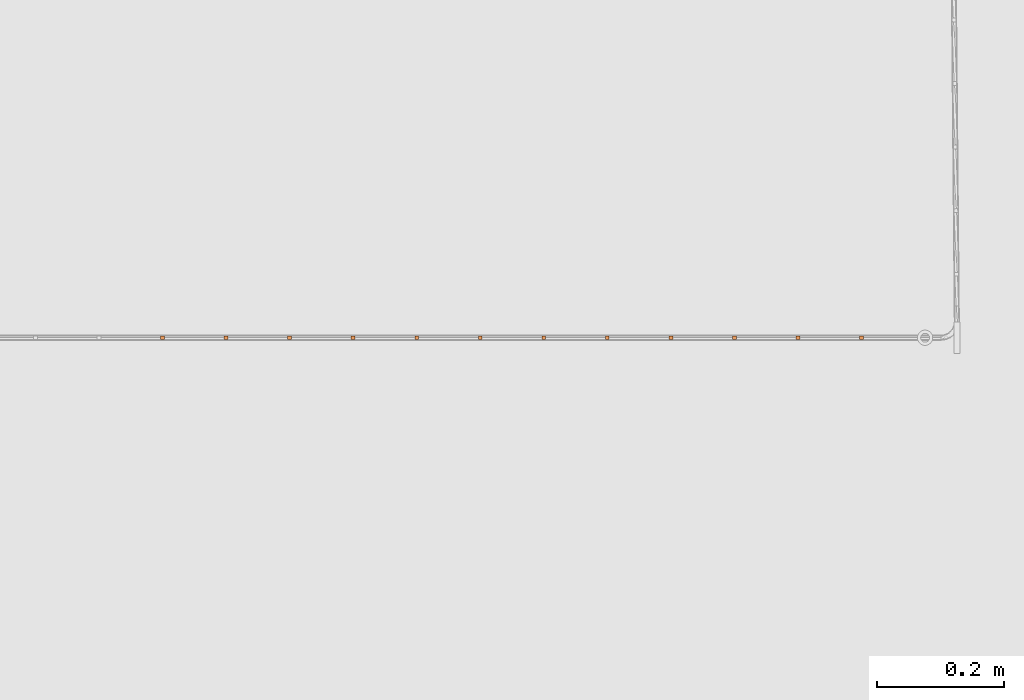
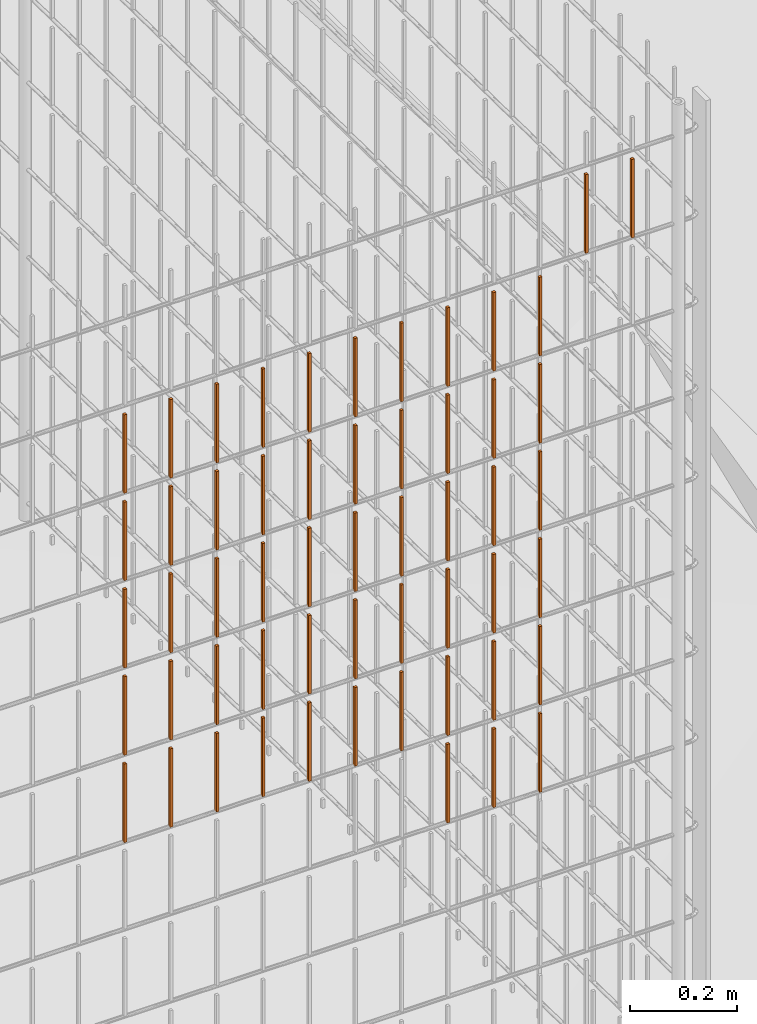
# One storey, part 253 of 1809: 55 proxies, 1 element without a shape of its own.
"""IFC2X3 building model written with IfcOpenShell, lengths in millimetres."""

from ifc_helpers import new_model, entity, si_unit, converted_unit, derived_unit, money_unit, direction, frame, origin_with_axes, place, context, subcontext, project, spatial, faceted_brep, source, transform, mapped, material, type_object, element, aggregate, save


model = new_model("IFC2X3")

# Units and contexts
model_context = context("Model", 3, precision=0.01, world=origin_with_axes(), true_north=direction((0.0, 1.0)))
body_context = subcontext(model_context, "Body", "Model", "MODEL_VIEW")
ifc_project = project(units=[si_unit("LENGTHUNIT", "METRE", prefix="MILLI"), si_unit("AREAUNIT", "SQUARE_METRE"), si_unit("VOLUMEUNIT", "CUBIC_METRE"), converted_unit("PLANEANGLEUNIT", "DEGREE", entity("IfcPlaneAngleMeasure", 0.0174532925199), si_unit("PLANEANGLEUNIT", "RADIAN"), dimensions=[0, 0, 0, 0, 0, 0, 0]), si_unit("SOLIDANGLEUNIT", "STERADIAN"), money_unit("EUR"), converted_unit("TIMEUNIT", "Year", entity("IfcTimeMeasure", 31556926.0), si_unit("TIMEUNIT", "SECOND"), dimensions=[0, 0, 1, 0, 0, 0, 0]), si_unit("MASSUNIT", "GRAM", prefix="KILO"), si_unit("THERMODYNAMICTEMPERATUREUNIT", "DEGREE_CELSIUS"), si_unit("LUMINOUSINTENSITYUNIT", "LUMEN"), si_unit("ENERGYUNIT", "JOULE", prefix="MEGA"), derived_unit("THERMALCONDUCTANCEUNIT", [(si_unit("POWERUNIT", "WATT"), 1), (si_unit("LENGTHUNIT", "METRE"), -1), (si_unit("THERMODYNAMICTEMPERATUREUNIT", "KELVIN"), -1)]), derived_unit("SPECIFICHEATCAPACITYUNIT", [(si_unit("ENERGYUNIT", "JOULE"), 1), (si_unit("MASSUNIT", "GRAM", prefix="KILO"), -1), (si_unit("THERMODYNAMICTEMPERATUREUNIT", "KELVIN"), -1)]), derived_unit("MASSDENSITYUNIT", [(si_unit("MASSUNIT", "GRAM", prefix="KILO"), 1), (si_unit("VOLUMEUNIT", "CUBIC_METRE"), -1)])], contexts=[model_context])

# Site, building, storey
site_placement = place(None, origin_with_axes())
site = spatial("IfcSite", under=ifc_project, at=site_placement, Name="Politse- ja Piirivalveameti ning Päästeameti ühishoone", CompositionType="ELEMENT")
building_placement = place(site_placement, origin_with_axes())
building = spatial("IfcBuilding", under=site, at=building_placement, Name="Politse- ja Piirivalveameti ning Päästeameti ühishoone", CompositionType="ELEMENT")
storey_placement = place(building_placement, origin_with_axes())
storey = spatial("IfcBuildingStorey", under=building, at=storey_placement, Name="Esimene korrus", CompositionType="ELEMENT", Elevation=0.0)

# Proxies
building_element_proxy_type_1 = type_object("IfcBuildingElementProxyType", Name="Railing Type", PredefinedType="NOTDEFINED")
proxy_1_placement = place(storey_placement, frame((-16775.8601056, 25156.7555964, 0.0), z_axis=(0.0, 0.0, 1.0), x_axis=(1.0, 0.0, 0.0)))
proxy_1 = element("IfcBuildingElementProxy", 1, at=proxy_1_placement, inside=storey, type_object=building_element_proxy_type_1, Name="KENNELI PIIRE")
ifc_material = material(Name="Teras - Konstruktsioon")
building_element_proxy_type_2 = type_object("IfcBuildingElementProxyType", Name="IfcBuildingElementProxy", PredefinedType="NOTDEFINED")
shared_shape_1 = source(origin_with_axes(), body_context, "Body", "Brep", [
    faceted_brep([(3.0, 3.0, 0.0), (-3.0, 3.0, 0.0), (-3.0, 3.0, 180.000012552), (3.0, 3.0, 180.000012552), (3.0, -3.0, 0.0), (-3.0, -3.0, 0.0), (-3.0, -3.0, 180.000012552), (3.0, -3.0, 180.000012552)], [[[0, 1, 2, 3]], [[0, 4, 5, 1]], [[1, 5, 6, 2]], [[3, 2, 6, 7]], [[4, 0, 3, 7]], [[5, 4, 7, 6]]]),
])
proxy_2_placement = place(proxy_1_placement, frame((-382.266550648, -16068.8402798, 1003.99998745), z_axis=(0.0, 0.0, 1.0), x_axis=(1.0, 0.0, 0.0)))
proxy_2 = element("IfcBuildingElementProxy", 2, at=proxy_2_placement, type_object=building_element_proxy_type_2, material=ifc_material, Name="BALUSTER - 001", context=body_context, shape_type="MappedRepresentation", body=[
    mapped(shared_shape_1, transform((0.0, 0.0, 0.0), x_axis=(0.0, -1.0, 0.0), y_axis=(1.0, 0.0, 0.0), z_axis=(0.0, 0.0, 1.0))),
])
proxy_3_placement = place(proxy_1_placement, frame((-282.266550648, -16068.8402798, 1003.99998745), z_axis=(0.0, 0.0, 1.0), x_axis=(1.0, 0.0, 0.0)))
proxy_3 = element("IfcBuildingElementProxy", 3, at=proxy_3_placement, type_object=building_element_proxy_type_2, material=ifc_material, Name="BALUSTER - 001", context=body_context, shape_type="MappedRepresentation", body=[
    mapped(shared_shape_1, transform((0.0, 0.0, 0.0), x_axis=(0.0, -1.0, 0.0), y_axis=(1.0, 0.0, 0.0), z_axis=(0.0, 0.0, 1.0))),
])
proxy_4_placement = place(proxy_1_placement, frame((-182.266550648, -16068.8402798, 1003.99998745), z_axis=(0.0, 0.0, 1.0), x_axis=(1.0, 0.0, 0.0)))
proxy_4 = element("IfcBuildingElementProxy", 4, at=proxy_4_placement, type_object=building_element_proxy_type_2, material=ifc_material, Name="BALUSTER - 001", context=body_context, shape_type="MappedRepresentation", body=[
    mapped(shared_shape_1, transform((0.0, 0.0, 0.0), x_axis=(0.0, -1.0, 0.0), y_axis=(1.0, 0.0, 0.0), z_axis=(0.0, 0.0, 1.0))),
])
proxy_5_placement = place(proxy_1_placement, frame((-182.266550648, -16068.8402798, 1803.99998745), z_axis=(0.0, 0.0, 1.0), x_axis=(1.0, 0.0, 0.0)))
proxy_5 = element("IfcBuildingElementProxy", 5, at=proxy_5_placement, type_object=building_element_proxy_type_2, material=ifc_material, Name="BALUSTER - 001", context=body_context, shape_type="MappedRepresentation", body=[
    mapped(shared_shape_1, transform((0.0, 0.0, 0.0), x_axis=(0.0, -1.0, 0.0), y_axis=(1.0, 0.0, 0.0), z_axis=(0.0, 0.0, 1.0))),
])
shared_shape_2 = source(origin_with_axes(), body_context, "Body", "Brep", [
    faceted_brep([(3.0, 3.0, 0.0), (-3.0, 3.0, 0.0), (-3.0, 3.0, 180.000012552), (3.0, 3.0, 180.000012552), (3.0, -3.0, 0.0), (-3.0, -3.0, 0.0), (-3.0, -3.0, 180.000012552), (3.0, -3.0, 180.000012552)], [[[0, 1, 2, 3]], [[0, 4, 5, 1]], [[1, 5, 6, 2]], [[3, 2, 6, 7]], [[4, 0, 3, 7]], [[5, 4, 7, 6]]]),
])
proxy_6_placement = place(proxy_1_placement, frame((-1082.26655065, -16068.8402798, 1403.99998745), z_axis=(0.0, 0.0, 1.0), x_axis=(1.0, 0.0, 0.0)))
proxy_6 = element("IfcBuildingElementProxy", 6, at=proxy_6_placement, type_object=building_element_proxy_type_2, material=ifc_material, Name="BALUSTER - 001", context=body_context, shape_type="MappedRepresentation", body=[
    mapped(shared_shape_2, transform((0.0, 0.0, 0.0), x_axis=(0.0, -1.0, 0.0), y_axis=(1.0, 0.0, 0.0), z_axis=(0.0, 0.0, 1.0))),
])
proxy_7_placement = place(proxy_1_placement, frame((-982.266550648, -16068.8402798, 1403.99998745), z_axis=(0.0, 0.0, 1.0), x_axis=(1.0, 0.0, 0.0)))
proxy_7 = element("IfcBuildingElementProxy", 7, at=proxy_7_placement, type_object=building_element_proxy_type_2, material=ifc_material, Name="BALUSTER - 001", context=body_context, shape_type="MappedRepresentation", body=[
    mapped(shared_shape_2, transform((0.0, 0.0, 0.0), x_axis=(0.0, -1.0, 0.0), y_axis=(1.0, 0.0, 0.0), z_axis=(0.0, 0.0, 1.0))),
])
proxy_8_placement = place(proxy_1_placement, frame((-882.266550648, -16068.8402798, 1403.99998745), z_axis=(0.0, 0.0, 1.0), x_axis=(1.0, 0.0, 0.0)))
proxy_8 = element("IfcBuildingElementProxy", 8, at=proxy_8_placement, type_object=building_element_proxy_type_2, material=ifc_material, Name="BALUSTER - 001", context=body_context, shape_type="MappedRepresentation", body=[
    mapped(shared_shape_2, transform((0.0, 0.0, 0.0), x_axis=(0.0, -1.0, 0.0), y_axis=(1.0, 0.0, 0.0), z_axis=(0.0, 0.0, 1.0))),
])
proxy_9_placement = place(proxy_1_placement, frame((-782.266550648, -16068.8402798, 1403.99998745), z_axis=(0.0, 0.0, 1.0), x_axis=(1.0, 0.0, 0.0)))
proxy_9 = element("IfcBuildingElementProxy", 9, at=proxy_9_placement, type_object=building_element_proxy_type_2, material=ifc_material, Name="BALUSTER - 001", context=body_context, shape_type="MappedRepresentation", body=[
    mapped(shared_shape_2, transform((0.0, 0.0, 0.0), x_axis=(0.0, -1.0, 0.0), y_axis=(1.0, 0.0, 0.0), z_axis=(0.0, 0.0, 1.0))),
])
proxy_10_placement = place(proxy_1_placement, frame((-682.266550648, -16068.8402798, 1403.99998745), z_axis=(0.0, 0.0, 1.0), x_axis=(1.0, 0.0, 0.0)))
proxy_10 = element("IfcBuildingElementProxy", 10, at=proxy_10_placement, type_object=building_element_proxy_type_2, material=ifc_material, Name="BALUSTER - 001", context=body_context, shape_type="MappedRepresentation", body=[
    mapped(shared_shape_2, transform((0.0, 0.0, 0.0), x_axis=(0.0, -1.0, 0.0), y_axis=(1.0, 0.0, 0.0), z_axis=(0.0, 0.0, 1.0))),
])
proxy_11_placement = place(proxy_1_placement, frame((-582.266550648, -16068.8402798, 1403.99998745), z_axis=(0.0, 0.0, 1.0), x_axis=(1.0, 0.0, 0.0)))
proxy_11 = element("IfcBuildingElementProxy", 11, at=proxy_11_placement, type_object=building_element_proxy_type_2, material=ifc_material, Name="BALUSTER - 001", context=body_context, shape_type="MappedRepresentation", body=[
    mapped(shared_shape_2, transform((0.0, 0.0, 0.0), x_axis=(0.0, -1.0, 0.0), y_axis=(1.0, 0.0, 0.0), z_axis=(0.0, 0.0, 1.0))),
])
proxy_12_placement = place(proxy_1_placement, frame((-482.266550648, -16068.8402798, 1403.99998745), z_axis=(0.0, 0.0, 1.0), x_axis=(1.0, 0.0, 0.0)))
proxy_12 = element("IfcBuildingElementProxy", 12, at=proxy_12_placement, type_object=building_element_proxy_type_2, material=ifc_material, Name="BALUSTER - 001", context=body_context, shape_type="MappedRepresentation", body=[
    mapped(shared_shape_2, transform((0.0, 0.0, 0.0), x_axis=(0.0, -1.0, 0.0), y_axis=(1.0, 0.0, 0.0), z_axis=(0.0, 0.0, 1.0))),
])
proxy_13_placement = place(proxy_1_placement, frame((-382.266550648, -16068.8402798, 1403.99998745), z_axis=(0.0, 0.0, 1.0), x_axis=(1.0, 0.0, 0.0)))
proxy_13 = element("IfcBuildingElementProxy", 13, at=proxy_13_placement, type_object=building_element_proxy_type_2, material=ifc_material, Name="BALUSTER - 001", context=body_context, shape_type="MappedRepresentation", body=[
    mapped(shared_shape_2, transform((0.0, 0.0, 0.0), x_axis=(0.0, -1.0, 0.0), y_axis=(1.0, 0.0, 0.0), z_axis=(0.0, 0.0, 1.0))),
])
proxy_14_placement = place(proxy_1_placement, frame((-282.266550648, -16068.8402798, 1403.99998745), z_axis=(0.0, 0.0, 1.0), x_axis=(1.0, 0.0, 0.0)))
proxy_14 = element("IfcBuildingElementProxy", 14, at=proxy_14_placement, type_object=building_element_proxy_type_2, material=ifc_material, Name="BALUSTER - 001", context=body_context, shape_type="MappedRepresentation", body=[
    mapped(shared_shape_2, transform((0.0, 0.0, 0.0), x_axis=(0.0, -1.0, 0.0), y_axis=(1.0, 0.0, 0.0), z_axis=(0.0, 0.0, 1.0))),
])
proxy_15_placement = place(proxy_1_placement, frame((-182.266550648, -16068.8402798, 1403.99998745), z_axis=(0.0, 0.0, 1.0), x_axis=(1.0, 0.0, 0.0)))
proxy_15 = element("IfcBuildingElementProxy", 15, at=proxy_15_placement, type_object=building_element_proxy_type_2, material=ifc_material, Name="BALUSTER - 001", context=body_context, shape_type="MappedRepresentation", body=[
    mapped(shared_shape_2, transform((0.0, 0.0, 0.0), x_axis=(0.0, -1.0, 0.0), y_axis=(1.0, 0.0, 0.0), z_axis=(0.0, 0.0, 1.0))),
])
shared_shape_3 = source(origin_with_axes(), body_context, "Body", "Brep", [
    faceted_brep([(3.0, 3.0, 0.0), (-3.0, 3.0, 0.0), (-3.0, 3.0, 180.000012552), (3.0, 3.0, 180.000012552), (3.0, -3.0, 0.0), (-3.0, -3.0, 0.0), (-3.0, -3.0, 180.000012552), (3.0, -3.0, 180.000012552)], [[[0, 1, 2, 3]], [[0, 4, 5, 1]], [[1, 5, 6, 2]], [[3, 2, 6, 7]], [[4, 0, 3, 7]], [[5, 4, 7, 6]]]),
])
proxy_16_placement = place(proxy_1_placement, frame((-1082.26655065, -16068.8402798, 1803.99998745), z_axis=(0.0, 0.0, 1.0), x_axis=(1.0, 0.0, 0.0)))
proxy_16 = element("IfcBuildingElementProxy", 16, at=proxy_16_placement, type_object=building_element_proxy_type_2, material=ifc_material, Name="BALUSTER - 001", context=body_context, shape_type="MappedRepresentation", body=[
    mapped(shared_shape_3, transform((0.0, 0.0, 0.0), x_axis=(0.0, -1.0, 0.0), y_axis=(1.0, 0.0, 0.0), z_axis=(0.0, 0.0, 1.0))),
])
proxy_17_placement = place(proxy_1_placement, frame((-882.266550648, -16068.8402798, 1803.99998745), z_axis=(0.0, 0.0, 1.0), x_axis=(1.0, 0.0, 0.0)))
proxy_17 = element("IfcBuildingElementProxy", 17, at=proxy_17_placement, type_object=building_element_proxy_type_2, material=ifc_material, Name="BALUSTER - 001", context=body_context, shape_type="MappedRepresentation", body=[
    mapped(shared_shape_3, transform((0.0, 0.0, 0.0), x_axis=(0.0, -1.0, 0.0), y_axis=(1.0, 0.0, 0.0), z_axis=(0.0, 0.0, 1.0))),
])
proxy_18_placement = place(proxy_1_placement, frame((-782.266550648, -16068.8402798, 1803.99998745), z_axis=(0.0, 0.0, 1.0), x_axis=(1.0, 0.0, 0.0)))
proxy_18 = element("IfcBuildingElementProxy", 18, at=proxy_18_placement, type_object=building_element_proxy_type_2, material=ifc_material, Name="BALUSTER - 001", context=body_context, shape_type="MappedRepresentation", body=[
    mapped(shared_shape_3, transform((0.0, 0.0, 0.0), x_axis=(0.0, -1.0, 0.0), y_axis=(1.0, 0.0, 0.0), z_axis=(0.0, 0.0, 1.0))),
])
proxy_19_placement = place(proxy_1_placement, frame((-682.266550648, -16068.8402798, 1803.99998745), z_axis=(0.0, 0.0, 1.0), x_axis=(1.0, 0.0, 0.0)))
proxy_19 = element("IfcBuildingElementProxy", 19, at=proxy_19_placement, type_object=building_element_proxy_type_2, material=ifc_material, Name="BALUSTER - 001", context=body_context, shape_type="MappedRepresentation", body=[
    mapped(shared_shape_3, transform((0.0, 0.0, 0.0), x_axis=(0.0, -1.0, 0.0), y_axis=(1.0, 0.0, 0.0), z_axis=(0.0, 0.0, 1.0))),
])
proxy_20_placement = place(proxy_1_placement, frame((-582.266550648, -16068.8402798, 1803.99998745), z_axis=(0.0, 0.0, 1.0), x_axis=(1.0, 0.0, 0.0)))
proxy_20 = element("IfcBuildingElementProxy", 20, at=proxy_20_placement, type_object=building_element_proxy_type_2, material=ifc_material, Name="BALUSTER - 001", context=body_context, shape_type="MappedRepresentation", body=[
    mapped(shared_shape_3, transform((0.0, 0.0, 0.0), x_axis=(0.0, -1.0, 0.0), y_axis=(1.0, 0.0, 0.0), z_axis=(0.0, 0.0, 1.0))),
])
proxy_21_placement = place(proxy_1_placement, frame((-382.266550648, -16068.8402798, 1803.99998745), z_axis=(0.0, 0.0, 1.0), x_axis=(1.0, 0.0, 0.0)))
proxy_21 = element("IfcBuildingElementProxy", 21, at=proxy_21_placement, type_object=building_element_proxy_type_2, material=ifc_material, Name="BALUSTER - 001", context=body_context, shape_type="MappedRepresentation", body=[
    mapped(shared_shape_3, transform((0.0, 0.0, 0.0), x_axis=(0.0, -1.0, 0.0), y_axis=(1.0, 0.0, 0.0), z_axis=(0.0, 0.0, 1.0))),
])
proxy_22_placement = place(proxy_1_placement, frame((-282.266550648, -16068.8402798, 1803.99998745), z_axis=(0.0, 0.0, 1.0), x_axis=(1.0, 0.0, 0.0)))
proxy_22 = element("IfcBuildingElementProxy", 22, at=proxy_22_placement, type_object=building_element_proxy_type_2, material=ifc_material, Name="BALUSTER - 001", context=body_context, shape_type="MappedRepresentation", body=[
    mapped(shared_shape_3, transform((0.0, 0.0, 0.0), x_axis=(0.0, -1.0, 0.0), y_axis=(1.0, 0.0, 0.0), z_axis=(0.0, 0.0, 1.0))),
])
shared_shape_4 = source(origin_with_axes(), body_context, "Body", "Brep", [
    faceted_brep([(3.0, 3.0, 0.0), (-3.0, 3.0, 0.0), (-3.0, 2.99999999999, 180.000012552), (3.0, 2.99999999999, 180.000012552), (3.0, -3.0, 0.0), (-3.0, -3.0, 0.0), (-3.0, -3.00000000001, 180.000012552), (3.0, -3.00000000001, 180.000012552)], [[[0, 1, 2, 3]], [[0, 4, 5, 1]], [[1, 5, 6, 2]], [[3, 2, 6, 7]], [[4, 0, 3, 7]], [[5, 4, 7, 6]]]),
])
proxy_23_placement = place(proxy_1_placement, frame((-982.266550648, -16068.8402798, 1803.99998745), z_axis=(0.0, 0.0, 1.0), x_axis=(1.0, 0.0, 0.0)))
proxy_23 = element("IfcBuildingElementProxy", 23, at=proxy_23_placement, type_object=building_element_proxy_type_2, material=ifc_material, Name="BALUSTER - 001", context=body_context, shape_type="MappedRepresentation", body=[
    mapped(shared_shape_4, transform((0.0, 0.0, 0.0), x_axis=(0.0, -1.0, 0.0), y_axis=(1.0, 0.0, 0.0), z_axis=(0.0, 0.0, 1.0))),
])
proxy_24_placement = place(proxy_1_placement, frame((-482.266550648, -16068.8402798, 1803.99998745), z_axis=(0.0, 0.0, 1.0), x_axis=(1.0, 0.0, 0.0)))
proxy_24 = element("IfcBuildingElementProxy", 24, at=proxy_24_placement, type_object=building_element_proxy_type_2, material=ifc_material, Name="BALUSTER - 001", context=body_context, shape_type="MappedRepresentation", body=[
    mapped(shared_shape_4, transform((0.0, 0.0, 0.0), x_axis=(0.0, -1.0, 0.0), y_axis=(1.0, 0.0, 0.0), z_axis=(0.0, 0.0, 1.0))),
])
shared_shape_5 = source(origin_with_axes(), body_context, "Body", "Brep", [
    faceted_brep([(3.0, 3.0, 0.0), (-3.0, 3.0, 0.0), (-3.0, 3.0, 180.000012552), (3.0, 3.0, 180.000012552), (3.0, -3.0, 0.0), (-3.0, -3.0, 0.0), (-3.0, -3.0, 180.000012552), (3.0, -3.0, 180.000012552)], [[[0, 1, 2, 3]], [[0, 4, 5, 1]], [[1, 5, 6, 2]], [[3, 2, 6, 7]], [[4, 0, 3, 7]], [[5, 4, 7, 6]]]),
])
proxy_25_placement = place(proxy_1_placement, frame((-1082.26655065, -16068.8402798, 2003.99998745), z_axis=(0.0, 0.0, 1.0), x_axis=(1.0, 0.0, 0.0)))
proxy_25 = element("IfcBuildingElementProxy", 25, at=proxy_25_placement, type_object=building_element_proxy_type_2, material=ifc_material, Name="BALUSTER - 001", context=body_context, shape_type="MappedRepresentation", body=[
    mapped(shared_shape_5, transform((0.0, 0.0, 0.0), x_axis=(0.0, -1.0, 0.0), y_axis=(1.0, 0.0, 0.0), z_axis=(0.0, 0.0, 1.0))),
])
proxy_26_placement = place(proxy_1_placement, frame((-982.266550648, -16068.8402798, 2003.99998745), z_axis=(0.0, 0.0, 1.0), x_axis=(1.0, 0.0, 0.0)))
proxy_26 = element("IfcBuildingElementProxy", 26, at=proxy_26_placement, type_object=building_element_proxy_type_2, material=ifc_material, Name="BALUSTER - 001", context=body_context, shape_type="MappedRepresentation", body=[
    mapped(shared_shape_5, transform((0.0, 0.0, 0.0), x_axis=(0.0, -1.0, 0.0), y_axis=(1.0, 0.0, 0.0), z_axis=(0.0, 0.0, 1.0))),
])
proxy_27_placement = place(proxy_1_placement, frame((-882.266550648, -16068.8402798, 2003.99998745), z_axis=(0.0, 0.0, 1.0), x_axis=(1.0, 0.0, 0.0)))
proxy_27 = element("IfcBuildingElementProxy", 27, at=proxy_27_placement, type_object=building_element_proxy_type_2, material=ifc_material, Name="BALUSTER - 001", context=body_context, shape_type="MappedRepresentation", body=[
    mapped(shared_shape_5, transform((0.0, 0.0, 0.0), x_axis=(0.0, -1.0, 0.0), y_axis=(1.0, 0.0, 0.0), z_axis=(0.0, 0.0, 1.0))),
])
proxy_28_placement = place(proxy_1_placement, frame((-782.266550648, -16068.8402798, 2003.99998745), z_axis=(0.0, 0.0, 1.0), x_axis=(1.0, 0.0, 0.0)))
proxy_28 = element("IfcBuildingElementProxy", 28, at=proxy_28_placement, type_object=building_element_proxy_type_2, material=ifc_material, Name="BALUSTER - 001", context=body_context, shape_type="MappedRepresentation", body=[
    mapped(shared_shape_5, transform((0.0, 0.0, 0.0), x_axis=(0.0, -1.0, 0.0), y_axis=(1.0, 0.0, 0.0), z_axis=(0.0, 0.0, 1.0))),
])
proxy_29_placement = place(proxy_1_placement, frame((-682.266550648, -16068.8402798, 2003.99998745), z_axis=(0.0, 0.0, 1.0), x_axis=(1.0, 0.0, 0.0)))
proxy_29 = element("IfcBuildingElementProxy", 29, at=proxy_29_placement, type_object=building_element_proxy_type_2, material=ifc_material, Name="BALUSTER - 001", context=body_context, shape_type="MappedRepresentation", body=[
    mapped(shared_shape_5, transform((0.0, 0.0, 0.0), x_axis=(0.0, -1.0, 0.0), y_axis=(1.0, 0.0, 0.0), z_axis=(0.0, 0.0, 1.0))),
])
proxy_30_placement = place(proxy_1_placement, frame((-582.266550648, -16068.8402798, 2003.99998745), z_axis=(0.0, 0.0, 1.0), x_axis=(1.0, 0.0, 0.0)))
proxy_30 = element("IfcBuildingElementProxy", 30, at=proxy_30_placement, type_object=building_element_proxy_type_2, material=ifc_material, Name="BALUSTER - 001", context=body_context, shape_type="MappedRepresentation", body=[
    mapped(shared_shape_5, transform((0.0, 0.0, 0.0), x_axis=(0.0, -1.0, 0.0), y_axis=(1.0, 0.0, 0.0), z_axis=(0.0, 0.0, 1.0))),
])
proxy_31_placement = place(proxy_1_placement, frame((-482.266550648, -16068.8402798, 2003.99998745), z_axis=(0.0, 0.0, 1.0), x_axis=(1.0, 0.0, 0.0)))
proxy_31 = element("IfcBuildingElementProxy", 31, at=proxy_31_placement, type_object=building_element_proxy_type_2, material=ifc_material, Name="BALUSTER - 001", context=body_context, shape_type="MappedRepresentation", body=[
    mapped(shared_shape_5, transform((0.0, 0.0, 0.0), x_axis=(0.0, -1.0, 0.0), y_axis=(1.0, 0.0, 0.0), z_axis=(0.0, 0.0, 1.0))),
])
proxy_32_placement = place(proxy_1_placement, frame((-382.266550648, -16068.8402798, 2003.99998745), z_axis=(0.0, 0.0, 1.0), x_axis=(1.0, 0.0, 0.0)))
proxy_32 = element("IfcBuildingElementProxy", 32, at=proxy_32_placement, type_object=building_element_proxy_type_2, material=ifc_material, Name="BALUSTER - 001", context=body_context, shape_type="MappedRepresentation", body=[
    mapped(shared_shape_5, transform((0.0, 0.0, 0.0), x_axis=(0.0, -1.0, 0.0), y_axis=(1.0, 0.0, 0.0), z_axis=(0.0, 0.0, 1.0))),
])
proxy_33_placement = place(proxy_1_placement, frame((-282.266550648, -16068.8402798, 2003.99998745), z_axis=(0.0, 0.0, 1.0), x_axis=(1.0, 0.0, 0.0)))
proxy_33 = element("IfcBuildingElementProxy", 33, at=proxy_33_placement, type_object=building_element_proxy_type_2, material=ifc_material, Name="BALUSTER - 001", context=body_context, shape_type="MappedRepresentation", body=[
    mapped(shared_shape_5, transform((0.0, 0.0, 0.0), x_axis=(0.0, -1.0, 0.0), y_axis=(1.0, 0.0, 0.0), z_axis=(0.0, 0.0, 1.0))),
])
proxy_34_placement = place(proxy_1_placement, frame((-182.266550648, -16068.8402798, 2003.99998745), z_axis=(0.0, 0.0, 1.0), x_axis=(1.0, 0.0, 0.0)))
proxy_34 = element("IfcBuildingElementProxy", 34, at=proxy_34_placement, type_object=building_element_proxy_type_2, material=ifc_material, Name="BALUSTER - 001", context=body_context, shape_type="MappedRepresentation", body=[
    mapped(shared_shape_5, transform((0.0, 0.0, 0.0), x_axis=(0.0, -1.0, 0.0), y_axis=(1.0, 0.0, 0.0), z_axis=(0.0, 0.0, 1.0))),
])
shared_shape_6 = source(origin_with_axes(), body_context, "Body", "Brep", [
    faceted_brep([(3.0, 3.0, 0.0), (-3.0, 3.0, 0.0), (-3.0, 3.0, 180.000012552), (3.0, 3.0, 180.000012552), (3.0, -3.0, 0.0), (-3.0, -3.0, 0.0), (-3.0, -3.0, 180.000012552), (3.0, -3.0, 180.000012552)], [[[0, 1, 2, 3]], [[0, 4, 5, 1]], [[1, 5, 6, 2]], [[3, 2, 6, 7]], [[4, 0, 3, 7]], [[5, 4, 7, 6]]]),
])
proxy_35_placement = place(proxy_1_placement, frame((-82.2665506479, -16068.8402798, 2203.99998745), z_axis=(0.0, 0.0, 1.0), x_axis=(1.0, 0.0, 0.0)))
proxy_35 = element("IfcBuildingElementProxy", 35, at=proxy_35_placement, type_object=building_element_proxy_type_2, material=ifc_material, Name="BALUSTER - 001", context=body_context, shape_type="MappedRepresentation", body=[
    mapped(shared_shape_6, transform((0.0, 0.0, 0.0), x_axis=(0.0, -1.0, 0.0), y_axis=(1.0, 0.0, 0.0), z_axis=(0.0, 0.0, 1.0))),
])
proxy_36_placement = place(proxy_1_placement, frame((17.7334493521, -16068.8402798, 2203.99998745), z_axis=(0.0, 0.0, 1.0), x_axis=(1.0, 0.0, 0.0)))
proxy_36 = element("IfcBuildingElementProxy", 36, at=proxy_36_placement, type_object=building_element_proxy_type_2, material=ifc_material, Name="BALUSTER - 001", context=body_context, shape_type="MappedRepresentation", body=[
    mapped(shared_shape_6, transform((0.0, 0.0, 0.0), x_axis=(0.0, -1.0, 0.0), y_axis=(1.0, 0.0, 0.0), z_axis=(0.0, 0.0, 1.0))),
])
proxy_37_placement = place(proxy_1_placement, frame((-1082.26655065, -16068.8402798, 1203.99998745), z_axis=(0.0, 0.0, 1.0), x_axis=(1.0, 0.0, 0.0)))
proxy_37 = element("IfcBuildingElementProxy", 37, at=proxy_37_placement, type_object=building_element_proxy_type_2, material=ifc_material, Name="BALUSTER - 001", context=body_context, shape_type="MappedRepresentation", body=[
    mapped(shared_shape_6, transform((0.0, 0.0, 0.0), x_axis=(0.0, -1.0, 0.0), y_axis=(1.0, 0.0, 0.0), z_axis=(0.0, 0.0, 1.0))),
])
proxy_38_placement = place(proxy_1_placement, frame((-982.266550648, -16068.8402798, 1203.99998745), z_axis=(0.0, 0.0, 1.0), x_axis=(1.0, 0.0, 0.0)))
proxy_38 = element("IfcBuildingElementProxy", 38, at=proxy_38_placement, type_object=building_element_proxy_type_2, material=ifc_material, Name="BALUSTER - 001", context=body_context, shape_type="MappedRepresentation", body=[
    mapped(shared_shape_6, transform((0.0, 0.0, 0.0), x_axis=(0.0, -1.0, 0.0), y_axis=(1.0, 0.0, 0.0), z_axis=(0.0, 0.0, 1.0))),
])
proxy_39_placement = place(proxy_1_placement, frame((-882.266550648, -16068.8402798, 1203.99998745), z_axis=(0.0, 0.0, 1.0), x_axis=(1.0, 0.0, 0.0)))
proxy_39 = element("IfcBuildingElementProxy", 39, at=proxy_39_placement, type_object=building_element_proxy_type_2, material=ifc_material, Name="BALUSTER - 001", context=body_context, shape_type="MappedRepresentation", body=[
    mapped(shared_shape_6, transform((0.0, 0.0, 0.0), x_axis=(0.0, -1.0, 0.0), y_axis=(1.0, 0.0, 0.0), z_axis=(0.0, 0.0, 1.0))),
])
proxy_40_placement = place(proxy_1_placement, frame((-782.266550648, -16068.8402798, 1203.99998745), z_axis=(0.0, 0.0, 1.0), x_axis=(1.0, 0.0, 0.0)))
proxy_40 = element("IfcBuildingElementProxy", 40, at=proxy_40_placement, type_object=building_element_proxy_type_2, material=ifc_material, Name="BALUSTER - 001", context=body_context, shape_type="MappedRepresentation", body=[
    mapped(shared_shape_6, transform((0.0, 0.0, 0.0), x_axis=(0.0, -1.0, 0.0), y_axis=(1.0, 0.0, 0.0), z_axis=(0.0, 0.0, 1.0))),
])
proxy_41_placement = place(proxy_1_placement, frame((-682.266550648, -16068.8402798, 1203.99998745), z_axis=(0.0, 0.0, 1.0), x_axis=(1.0, 0.0, 0.0)))
proxy_41 = element("IfcBuildingElementProxy", 41, at=proxy_41_placement, type_object=building_element_proxy_type_2, material=ifc_material, Name="BALUSTER - 001", context=body_context, shape_type="MappedRepresentation", body=[
    mapped(shared_shape_6, transform((0.0, 0.0, 0.0), x_axis=(0.0, -1.0, 0.0), y_axis=(1.0, 0.0, 0.0), z_axis=(0.0, 0.0, 1.0))),
])
proxy_42_placement = place(proxy_1_placement, frame((-582.266550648, -16068.8402798, 1203.99998745), z_axis=(0.0, 0.0, 1.0), x_axis=(1.0, 0.0, 0.0)))
proxy_42 = element("IfcBuildingElementProxy", 42, at=proxy_42_placement, type_object=building_element_proxy_type_2, material=ifc_material, Name="BALUSTER - 001", context=body_context, shape_type="MappedRepresentation", body=[
    mapped(shared_shape_6, transform((0.0, 0.0, 0.0), x_axis=(0.0, -1.0, 0.0), y_axis=(1.0, 0.0, 0.0), z_axis=(0.0, 0.0, 1.0))),
])
proxy_43_placement = place(proxy_1_placement, frame((-482.266550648, -16068.8402798, 1203.99998745), z_axis=(0.0, 0.0, 1.0), x_axis=(1.0, 0.0, 0.0)))
proxy_43 = element("IfcBuildingElementProxy", 43, at=proxy_43_placement, type_object=building_element_proxy_type_2, material=ifc_material, Name="BALUSTER - 001", context=body_context, shape_type="MappedRepresentation", body=[
    mapped(shared_shape_6, transform((0.0, 0.0, 0.0), x_axis=(0.0, -1.0, 0.0), y_axis=(1.0, 0.0, 0.0), z_axis=(0.0, 0.0, 1.0))),
])
proxy_44_placement = place(proxy_1_placement, frame((-382.266550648, -16068.8402798, 1203.99998745), z_axis=(0.0, 0.0, 1.0), x_axis=(1.0, 0.0, 0.0)))
proxy_44 = element("IfcBuildingElementProxy", 44, at=proxy_44_placement, type_object=building_element_proxy_type_2, material=ifc_material, Name="BALUSTER - 001", context=body_context, shape_type="MappedRepresentation", body=[
    mapped(shared_shape_6, transform((0.0, 0.0, 0.0), x_axis=(0.0, -1.0, 0.0), y_axis=(1.0, 0.0, 0.0), z_axis=(0.0, 0.0, 1.0))),
])
proxy_45_placement = place(proxy_1_placement, frame((-282.266550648, -16068.8402798, 1203.99998745), z_axis=(0.0, 0.0, 1.0), x_axis=(1.0, 0.0, 0.0)))
proxy_45 = element("IfcBuildingElementProxy", 45, at=proxy_45_placement, type_object=building_element_proxy_type_2, material=ifc_material, Name="BALUSTER - 001", context=body_context, shape_type="MappedRepresentation", body=[
    mapped(shared_shape_6, transform((0.0, 0.0, 0.0), x_axis=(0.0, -1.0, 0.0), y_axis=(1.0, 0.0, 0.0), z_axis=(0.0, 0.0, 1.0))),
])
proxy_46_placement = place(proxy_1_placement, frame((-182.266550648, -16068.8402798, 1203.99998745), z_axis=(0.0, 0.0, 1.0), x_axis=(1.0, 0.0, 0.0)))
proxy_46 = element("IfcBuildingElementProxy", 46, at=proxy_46_placement, type_object=building_element_proxy_type_2, material=ifc_material, Name="BALUSTER - 001", context=body_context, shape_type="MappedRepresentation", body=[
    mapped(shared_shape_6, transform((0.0, 0.0, 0.0), x_axis=(0.0, -1.0, 0.0), y_axis=(1.0, 0.0, 0.0), z_axis=(0.0, 0.0, 1.0))),
])
shared_shape_7 = source(origin_with_axes(), body_context, "Body", "Brep", [
    faceted_brep([(3.0, 3.0, 0.0), (-3.0, 3.0, 0.0), (-3.0, 3.0, 180.000012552), (3.0, 3.0, 180.000012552), (3.0, -3.0, 0.0), (-3.0, -3.0, 0.0), (-3.0, -3.0, 180.000012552), (3.0, -3.0, 180.000012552)], [[[0, 1, 2, 3]], [[0, 4, 5, 1]], [[1, 5, 6, 2]], [[3, 2, 6, 7]], [[4, 0, 3, 7]], [[5, 4, 7, 6]]]),
])
proxy_47_placement = place(proxy_1_placement, frame((-1082.26655065, -16068.8402798, 1603.99998745), z_axis=(0.0, 0.0, 1.0), x_axis=(1.0, 0.0, 0.0)))
proxy_47 = element("IfcBuildingElementProxy", 47, at=proxy_47_placement, type_object=building_element_proxy_type_2, material=ifc_material, Name="BALUSTER - 001", context=body_context, shape_type="MappedRepresentation", body=[
    mapped(shared_shape_7, transform((0.0, 0.0, 0.0), x_axis=(0.0, -1.0, 0.0), y_axis=(1.0, 0.0, 0.0), z_axis=(0.0, 0.0, 1.0))),
])
proxy_48_placement = place(proxy_1_placement, frame((-982.266550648, -16068.8402798, 1603.99998745), z_axis=(0.0, 0.0, 1.0), x_axis=(1.0, 0.0, 0.0)))
proxy_48 = element("IfcBuildingElementProxy", 48, at=proxy_48_placement, type_object=building_element_proxy_type_2, material=ifc_material, Name="BALUSTER - 001", context=body_context, shape_type="MappedRepresentation", body=[
    mapped(shared_shape_7, transform((0.0, 0.0, 0.0), x_axis=(0.0, -1.0, 0.0), y_axis=(1.0, 0.0, 0.0), z_axis=(0.0, 0.0, 1.0))),
])
proxy_49_placement = place(proxy_1_placement, frame((-882.266550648, -16068.8402798, 1603.99998745), z_axis=(0.0, 0.0, 1.0), x_axis=(1.0, 0.0, 0.0)))
proxy_49 = element("IfcBuildingElementProxy", 49, at=proxy_49_placement, type_object=building_element_proxy_type_2, material=ifc_material, Name="BALUSTER - 001", context=body_context, shape_type="MappedRepresentation", body=[
    mapped(shared_shape_7, transform((0.0, 0.0, 0.0), x_axis=(0.0, -1.0, 0.0), y_axis=(1.0, 0.0, 0.0), z_axis=(0.0, 0.0, 1.0))),
])
proxy_50_placement = place(proxy_1_placement, frame((-782.266550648, -16068.8402798, 1603.99998745), z_axis=(0.0, 0.0, 1.0), x_axis=(1.0, 0.0, 0.0)))
proxy_50 = element("IfcBuildingElementProxy", 50, at=proxy_50_placement, type_object=building_element_proxy_type_2, material=ifc_material, Name="BALUSTER - 001", context=body_context, shape_type="MappedRepresentation", body=[
    mapped(shared_shape_7, transform((0.0, 0.0, 0.0), x_axis=(0.0, -1.0, 0.0), y_axis=(1.0, 0.0, 0.0), z_axis=(0.0, 0.0, 1.0))),
])
proxy_51_placement = place(proxy_1_placement, frame((-682.266550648, -16068.8402798, 1603.99998745), z_axis=(0.0, 0.0, 1.0), x_axis=(1.0, 0.0, 0.0)))
proxy_51 = element("IfcBuildingElementProxy", 51, at=proxy_51_placement, type_object=building_element_proxy_type_2, material=ifc_material, Name="BALUSTER - 001", context=body_context, shape_type="MappedRepresentation", body=[
    mapped(shared_shape_7, transform((0.0, 0.0, 0.0), x_axis=(0.0, -1.0, 0.0), y_axis=(1.0, 0.0, 0.0), z_axis=(0.0, 0.0, 1.0))),
])
proxy_52_placement = place(proxy_1_placement, frame((-582.266550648, -16068.8402798, 1603.99998745), z_axis=(0.0, 0.0, 1.0), x_axis=(1.0, 0.0, 0.0)))
proxy_52 = element("IfcBuildingElementProxy", 52, at=proxy_52_placement, type_object=building_element_proxy_type_2, material=ifc_material, Name="BALUSTER - 001", context=body_context, shape_type="MappedRepresentation", body=[
    mapped(shared_shape_7, transform((0.0, 0.0, 0.0), x_axis=(0.0, -1.0, 0.0), y_axis=(1.0, 0.0, 0.0), z_axis=(0.0, 0.0, 1.0))),
])
proxy_53_placement = place(proxy_1_placement, frame((-482.266550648, -16068.8402798, 1603.99998745), z_axis=(0.0, 0.0, 1.0), x_axis=(1.0, 0.0, 0.0)))
proxy_53 = element("IfcBuildingElementProxy", 53, at=proxy_53_placement, type_object=building_element_proxy_type_2, material=ifc_material, Name="BALUSTER - 001", context=body_context, shape_type="MappedRepresentation", body=[
    mapped(shared_shape_7, transform((0.0, 0.0, 0.0), x_axis=(0.0, -1.0, 0.0), y_axis=(1.0, 0.0, 0.0), z_axis=(0.0, 0.0, 1.0))),
])
proxy_54_placement = place(proxy_1_placement, frame((-382.266550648, -16068.8402798, 1603.99998745), z_axis=(0.0, 0.0, 1.0), x_axis=(1.0, 0.0, 0.0)))
proxy_54 = element("IfcBuildingElementProxy", 54, at=proxy_54_placement, type_object=building_element_proxy_type_2, material=ifc_material, Name="BALUSTER - 001", context=body_context, shape_type="MappedRepresentation", body=[
    mapped(shared_shape_7, transform((0.0, 0.0, 0.0), x_axis=(0.0, -1.0, 0.0), y_axis=(1.0, 0.0, 0.0), z_axis=(0.0, 0.0, 1.0))),
])
proxy_55_placement = place(proxy_1_placement, frame((-282.266550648, -16068.8402798, 1603.99998745), z_axis=(0.0, 0.0, 1.0), x_axis=(1.0, 0.0, 0.0)))
proxy_55 = element("IfcBuildingElementProxy", 55, at=proxy_55_placement, type_object=building_element_proxy_type_2, material=ifc_material, Name="BALUSTER - 001", context=body_context, shape_type="MappedRepresentation", body=[
    mapped(shared_shape_7, transform((0.0, 0.0, 0.0), x_axis=(0.0, -1.0, 0.0), y_axis=(1.0, 0.0, 0.0), z_axis=(0.0, 0.0, 1.0))),
])
proxy_56_placement = place(proxy_1_placement, frame((-182.266550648, -16068.8402798, 1603.99998745), z_axis=(0.0, 0.0, 1.0), x_axis=(1.0, 0.0, 0.0)))
proxy_56 = element("IfcBuildingElementProxy", 56, at=proxy_56_placement, type_object=building_element_proxy_type_2, material=ifc_material, Name="BALUSTER - 001", context=body_context, shape_type="MappedRepresentation", body=[
    mapped(shared_shape_7, transform((0.0, 0.0, 0.0), x_axis=(0.0, -1.0, 0.0), y_axis=(1.0, 0.0, 0.0), z_axis=(0.0, 0.0, 1.0))),
])
aggregate(proxy_1, [proxy_35, proxy_36, proxy_2, proxy_3, proxy_4, proxy_37, proxy_38, proxy_39, proxy_40, proxy_41, proxy_42, proxy_43, proxy_44, proxy_45, proxy_46, proxy_6, proxy_7, proxy_8, proxy_9, proxy_10, proxy_11, proxy_12, proxy_13, proxy_14, proxy_15, proxy_47, proxy_48, proxy_49, proxy_50, proxy_51, proxy_52, proxy_53, proxy_54, proxy_55, proxy_56, proxy_16, proxy_23, proxy_17, proxy_18, proxy_19, proxy_20, proxy_24, proxy_21, proxy_22, proxy_5, proxy_25, proxy_26, proxy_27, proxy_28, proxy_29, proxy_30, proxy_31, proxy_32, proxy_33, proxy_34])

save(model, "model.ifc")
